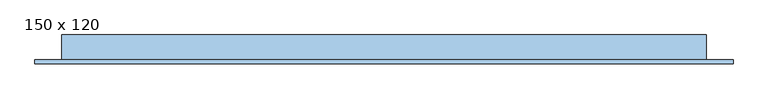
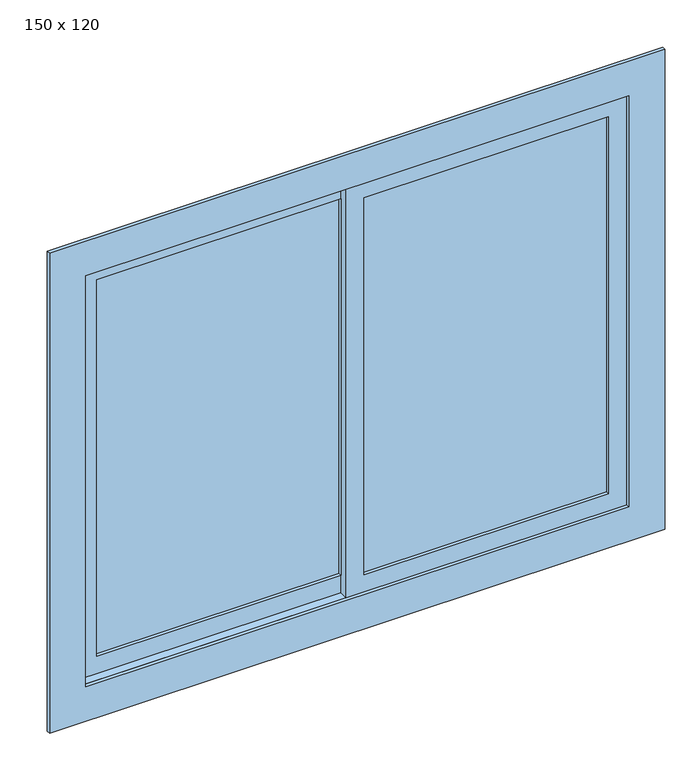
"""IFC4 building model written with IfcOpenShell, lengths in millimetres: window geometry, JANELA COM ESQUADRIA DE CORRER - 2 FOLHAS : 150 x 120."""

from ifc_helpers import new_model, si_unit, frame, origin, place, context, project, spatial, polyline, outline, extrude, source, transform, mapped, element, save


def window_150_x_120_82909caf(model_context):
    return source(origin(), model_context, "Body", "SweptSolid", [
        extrude(outline(polyline([(-570.5964491, -35.3758395), (104.4035509, -35.3758395), (104.4035509, -41.3758395), (-570.5964491, -41.3758395), (-570.5964491, -35.3758395)])), frame((0.0, 0.0, 1050.0), z_axis=(0.0, 0.0, 1.0), x_axis=(1.0, 0.0, 0.0)), (0.0, 0.0, 1.0), 1100.0),
        extrude(outline(polyline([(2200.0, -620.5964491), (1000.0, -620.5964491), (1000.0, 154.4035509), (2200.0, 154.4035509), (2200.0, -620.5964491)]), holes=[polyline([(2150.0, -570.5964491), (2150.0, 104.4035509), (1050.0, 104.4035509), (1050.0, -570.5964491), (2150.0, -570.5964491)])]), frame((0.0, -50.8758395, 0.0), z_axis=(0.0, 1.0, 0.0), x_axis=(0.0, 0.0, 1.0)), (0.0, 0.0, 1.0), 25.0),
        extrude(outline(polyline([(829.4035509, -60.3758395), (829.4035509, -66.3758395), (154.4035509, -66.3758395), (154.4035509, -60.3758395), (829.4035509, -60.3758395)])), frame((0.0, 0.0, 1050.0), z_axis=(0.0, 0.0, 1.0), x_axis=(1.0, 0.0, 0.0)), (0.0, 0.0, 1.0), 1100.0),
        extrude(outline(polyline([(2200.0, 879.4035509), (2200.0, 104.4035509), (1000.0, 104.4035509), (1000.0, 879.4035509), (2200.0, 879.4035509)]), holes=[polyline([(2150.0, 829.4035509), (1050.0, 829.4035509), (1050.0, 154.4035509), (2150.0, 154.4035509), (2150.0, 829.4035509)])]), frame((0.0, -75.8758395, 0.0), z_axis=(0.0, 1.0, 0.0), x_axis=(0.0, 0.0, 1.0)), (0.0, 0.0, 1.0), 25.0),
        extrude(outline(polyline([(900.0, -720.5964491), (900.0, 979.4035509), (2300.0, 979.4035509), (2300.0, -720.5964491), (900.0, -720.5964491)]), holes=[polyline([(2200.0, -620.5964491), (2200.0, 879.4035509), (1000.0, 879.4035509), (1000.0, -620.5964491), (2200.0, -620.5964491)])]), frame((0.0, -85.8758395, 0.0), z_axis=(0.0, 1.0, 0.0), x_axis=(0.0, 0.0, 1.0)), (0.0, 0.0, 1.0), 10.0),
        extrude(outline(polyline([(-655.5964491, -15.8758395), (-620.5964491, -15.8758395), (-620.5964491, -75.8758395), (-655.5964491, -75.8758395), (-655.5964491, -15.8758395)])), frame((0.0, 0.0, 1000.0), z_axis=(0.0, 0.0, 1.0), x_axis=(1.0, 0.0, 0.0)), (0.0, 0.0, 1.0), 1200.0),
        extrude(outline(polyline([(879.4035509, -15.8758395), (914.4035509, -15.8758395), (914.4035509, -75.8758395), (879.4035509, -75.8758395), (879.4035509, -15.8758395)])), frame((0.0, 0.0, 1000.0), z_axis=(0.0, 0.0, 1.0), x_axis=(1.0, 0.0, 0.0)), (0.0, 0.0, 1.0), 1200.0),
        extrude(outline(polyline([(-655.5964491, -15.8758395), (914.4035509, -15.8758395), (914.4035509, -75.8758395), (-655.5964491, -75.8758395), (-655.5964491, -15.8758395)])), frame((0.0, 0.0, 965.0), z_axis=(0.0, 0.0, 1.0), x_axis=(1.0, 0.0, 0.0)), (0.0, 0.0, 1.0), 35.0),
        extrude(outline(polyline([(-655.5964491, -15.8758395), (914.4035509, -15.8758395), (914.4035509, -75.8758395), (-655.5964491, -75.8758395), (-655.5964491, -15.8758395)])), frame((0.0, 0.0, 2200.0), z_axis=(0.0, 0.0, 1.0), x_axis=(1.0, 0.0, 0.0)), (0.0, 0.0, 1.0), 35.0),
    ])


if __name__ == "__main__":
    model = new_model("IFC4")
    model_context = context("Model", 3, world=origin())
    ifc_project = project(units=[si_unit("LENGTHUNIT", "METRE", prefix="MILLI")], contexts=[model_context])
    site = spatial("IfcSite", under=ifc_project)
    building = spatial("IfcBuilding", under=site)
    placement = place(None, origin())
    window_150_x_120_shape = window_150_x_120_82909caf(model_context)
    element("IfcWindow", 1, ObjectType="JANELA COM ESQUADRIA DE CORRER - 2 FOLHAS : 150 x 120", at=placement, inside=building, context=model_context, shape_type="MappedRepresentation", body=[
        mapped(window_150_x_120_shape, transform((0.0, 0.0, 0.0), x_axis=(1.0, 0.0, 0.0), y_axis=(0.0, 1.0, 0.0), z_axis=(0.0, 0.0, 1.0))),
    ])
    save(model, "model.ifc")
